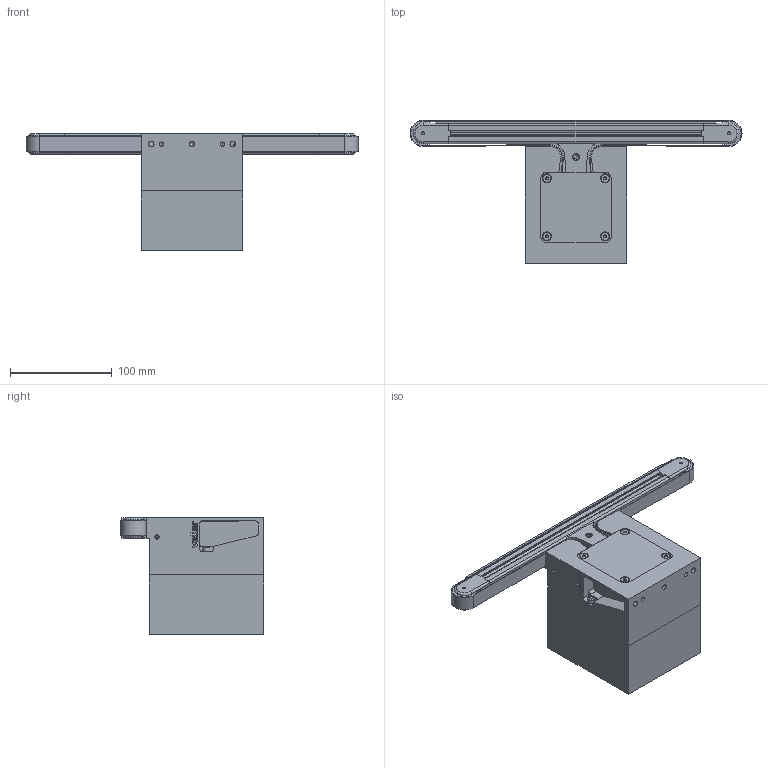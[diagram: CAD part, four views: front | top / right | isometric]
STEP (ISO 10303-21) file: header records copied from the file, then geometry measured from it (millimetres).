
FILE_DESCRIPTION(/* description */ (''),/* implementation_level */ '2;1');
FILE_NAME(/* name */ 'G:\DATEN\CAD\Förderband\Marketing\3D-Modelle (Standard)\FR-20-20-M\FR-20-20-M-300-K.stp',/* time_stamp */ '2019-03-27T09:57:20+01:00',/* author */ ('pia.schaefer'),/* organization */ (''),/* preprocessor_version */ 'ST-DEVELOPER v17',/* originating_system */ 'Autodesk Inventor 2019',/* authorisation */ '');
FILE_SCHEMA (('AUTOMOTIVE_DESIGN { 1 0 10303 214 3 1 1 }'));
Length unit declared in the file: millimetre
Products named in the file (1): FR-20-20-M-300-K
Bounding box: 325.6 x 140.3 x 114 mm (x, y, z)
Volume: 1325536.3 mm3; surface area: 228174.4 mm2
Topology: 33 solids, 36 shells, 970 faces, 2643 edges, 1785 vertices
Faces by surface type: plane 521, cylinder 234, bspline 122, cone 77, torus 16
Full cylindrical faces by diameter (mm): 1.6 x4, 2.459 x2, 3 x2, 3.5 x4, 4 x6, 4.134 x6, 4.3 x1, 4.5 x4, 4.917 x3, 5 x10, 5.2 x2, 5.5 x2, 6.5 x1, 6.647 x1, 6.773 x1, 7 x2, 8 x14, 8.773 x1, 9.43 x2, 9.6 x2, 10 x5, 11 x1, 22 x2, 24 x2
Entity records: 33255 total; most frequent: CARTESIAN_POINT 8162, ORIENTED_EDGE 5242, DIRECTION 4631, EDGE_CURVE 2621, VERTEX_POINT 1785, AXIS2_PLACEMENT_3D 1551, LINE 1529, VECTOR 1529
